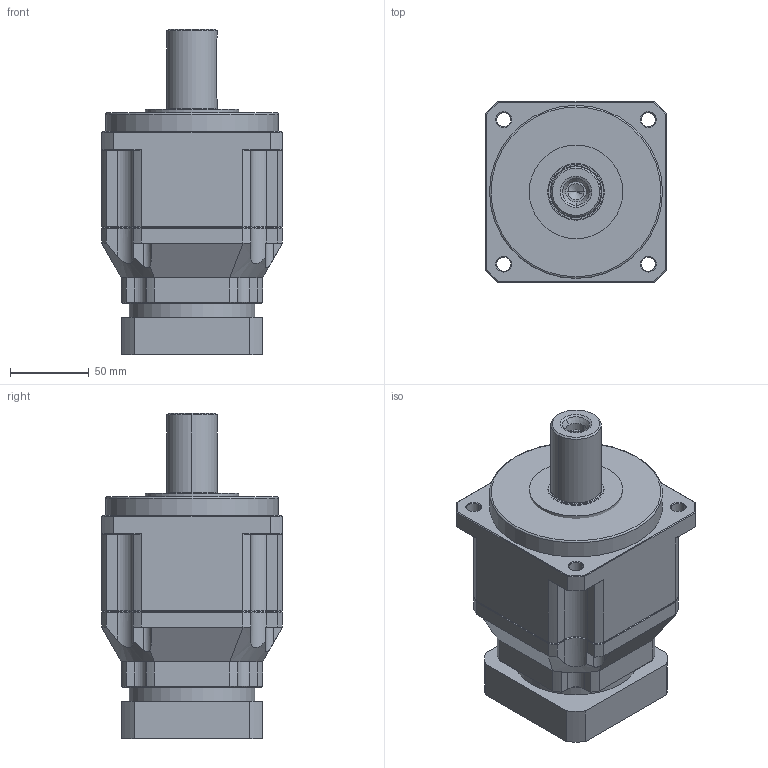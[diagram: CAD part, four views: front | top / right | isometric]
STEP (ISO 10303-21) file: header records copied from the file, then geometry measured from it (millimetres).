
FILE_DESCRIPTION(/* description */ (''),/* implementation_level */ '2;1');
FILE_NAME(/* name */ 'TB115-L2-19-80-100-M6-42.5-4.stp',/* time_stamp */ '2022-07-14T08:43:44+08:00',/* author */ (''),/* organization */ (''),/* preprocessor_version */ 'ST-DEVELOPER v16',/* originating_system */ 'SIEMENS PLM Software NX 10.0',/* authorisation */ '');
FILE_SCHEMA (('CONFIG_CONTROL_DESIGN'));
Length unit declared in the file: millimetre
Products named in the file (1): _model230
Bounding box: 115 x 115 x 207 mm (x, y, z)
Volume: 1421200.5 mm3; surface area: 173757.3 mm2
Topology: 7 solids, 7 shells, 488 faces, 1211 edges, 743 vertices
Faces by surface type: plane 174, cylinder 154, cone 148, torus 8, bspline 4
Full cylindrical faces by diameter (mm): 4.2 x6, 5.1 x4, 5.2 x1, 5.5 x10, 6.5 x1, 9 x6, 12.1 x1, 19 x1, 26.6 x1, 27.5 x1, 28 x2, 31 x1, 38 x1, 40 x1, 55 x1, 59.5 x1, 66 x1, 76 x1, 80 x2, 85 x1, 110 x1
Entity records: 14381 total; most frequent: CARTESIAN_POINT 3172, DIRECTION 2385, ORIENTED_EDGE 2156, EDGE_CURVE 1078, AXIS2_PLACEMENT_3D 942, VERTEX_POINT 711, EDGE_LOOP 633, LINE 501
